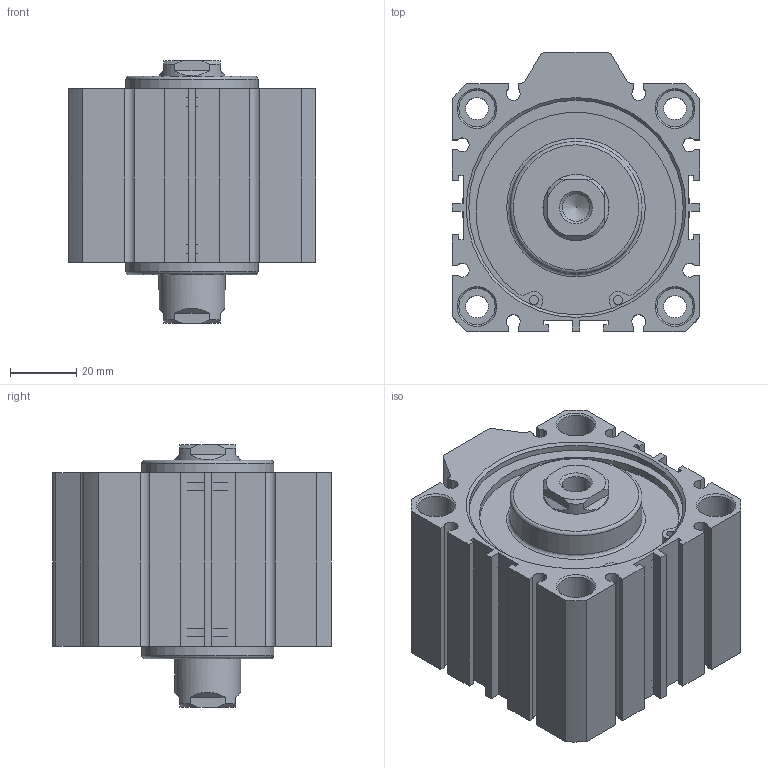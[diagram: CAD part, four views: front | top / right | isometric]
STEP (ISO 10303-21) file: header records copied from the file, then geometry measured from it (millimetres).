
FILE_DESCRIPTION((''),'2;1');
FILE_NAME('I:\3D電子目錄\氣缸\JDD\JDD-S\JDD63-S\JDD63x10-S.stp','2007-02-09T08:48:51',('662F206'),(''),'Autodesk Inventor 10','Autodesk Inventor 10','');
FILE_SCHEMA(('AUTOMOTIVE_DESIGN { 1 0 10303 214 1 1 1 1 }'));
Length unit declared in the file: millimetre
Products named in the file (3): JDD63-S; R 形環 65
Assembly tree (3 placements, depth 2):
  JDD63-S
    JDD63-S
    R 形環 65  x2
Bounding box: 75 x 84.5 x 79.5 mm (x, y, z)
Volume: 270722 mm3; surface area: 52195.7 mm2
Topology: 3 solids, 3 shells, 204 faces, 514 edges, 338 vertices
Faces by surface type: plane 116, cylinder 56, cone 24, bspline 6, torus 2
Full cylindrical faces by diameter (mm): 2.7 x4, 3 x2, 6.8 x4, 11 x8, 20 x2, 40 x2, 65 x4, 68 x2
Entity records: 5651 total; most frequent: CARTESIAN_POINT 1118, DIRECTION 936, ORIENTED_EDGE 848, EDGE_CURVE 424, AXIS2_PLACEMENT_3D 336, VERTEX_POINT 308, EDGE_LOOP 276, VECTOR 264
